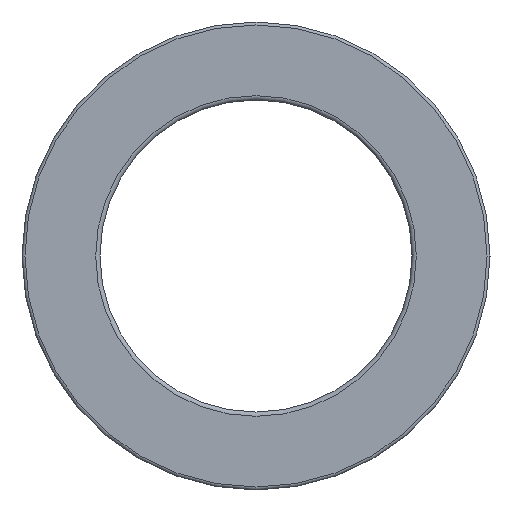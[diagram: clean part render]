
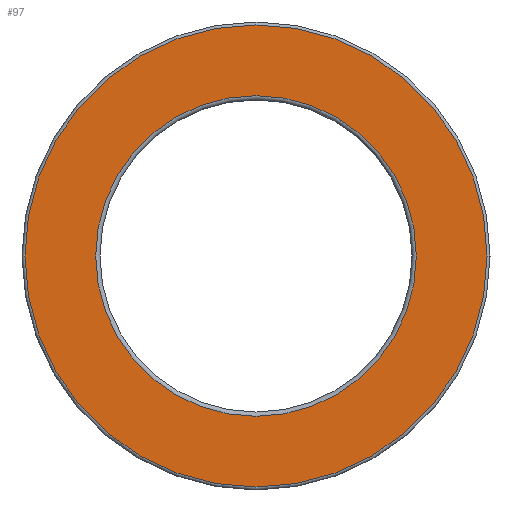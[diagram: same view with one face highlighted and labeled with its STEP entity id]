
A CAD part, left-side view. The second image highlights one B-rep face of the part: STEP entity #97.
In plain terms, the highlighted planar face has unit normal (-1, 0, 0).
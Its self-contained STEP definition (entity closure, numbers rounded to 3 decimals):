
#97=ADVANCED_FACE('',(#166,#167),#168,.F.);
#166=FACE_BOUND('',#238,.T.);
#167=FACE_OUTER_BOUND('',#239,.T.);
#168=PLANE('',#240);
#238=EDGE_LOOP('',(#354));
#239=EDGE_LOOP('',(#355));
#240=AXIS2_PLACEMENT_3D('',#356,#357,#358);
#354=ORIENTED_EDGE('',*,*,#386,.F.);
#355=ORIENTED_EDGE('',*,*,#387,.T.);
#356=CARTESIAN_POINT('',(0.0,29.619,0.0));
#357=DIRECTION('',(1.0,0.0,0.0));
#358=DIRECTION('',(0.0,0.0,-1.0));
#386=EDGE_CURVE('',#432,#432,#433,.T.);
#387=EDGE_CURVE('',#434,#434,#435,.T.);
#432=VERTEX_POINT('',#480);
#433=CIRCLE('',#481,20.558);
#434=VERTEX_POINT('',#482);
#435=CIRCLE('',#483,29.619);
#480=CARTESIAN_POINT('',(0.0,0.0,20.558));
#481=AXIS2_PLACEMENT_3D('',#550,#551,#552);
#482=CARTESIAN_POINT('',(0.0,0.0,29.619));
#483=AXIS2_PLACEMENT_3D('',#553,#554,#555);
#550=CARTESIAN_POINT('',(0.0,0.0,0.0));
#551=DIRECTION('',(-1.0,0.0,0.0));
#552=DIRECTION('',(0.0,0.0,1.0));
#553=CARTESIAN_POINT('',(0.0,0.0,0.0));
#554=DIRECTION('',(-1.0,0.0,0.0));
#555=DIRECTION('',(0.0,0.0,1.0));
